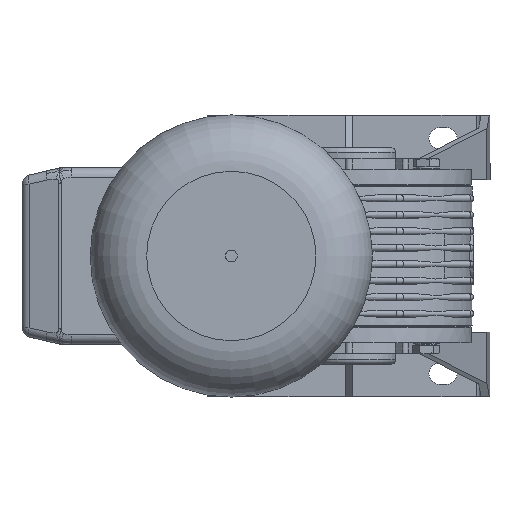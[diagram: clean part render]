
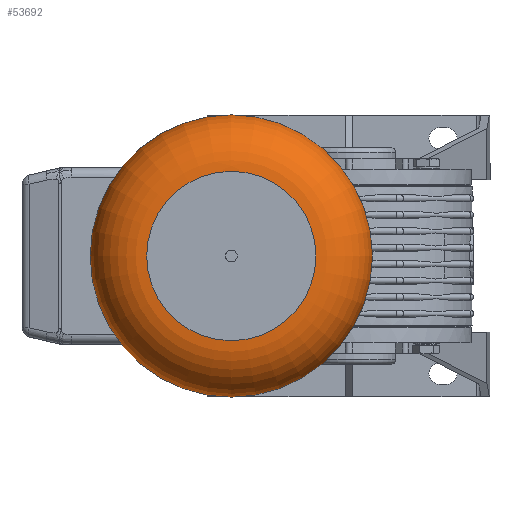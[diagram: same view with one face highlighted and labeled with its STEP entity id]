
A CAD part, left-side view. The second image highlights one B-rep face of the part: STEP entity #53692.
In plain terms, the highlighted toroidal (fillet/blend) face has major radius 36 mm and minor radius 24 mm.
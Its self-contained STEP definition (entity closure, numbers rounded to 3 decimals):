
#53665=CARTESIAN_POINT('',(236.0,0.0,0.0));
#53666=DIRECTION('',(1.0,0.0,0.0));
#53667=DIRECTION('',(0.0,0.0,-1.0));
#53668=AXIS2_PLACEMENT_3D('',#53665,#53666,#53667);
#53669=TOROIDAL_SURFACE('',#53668,36.,24.0);
#53670=CARTESIAN_POINT('',(260.0,36.,0.0));
#53671=VERTEX_POINT('',#53670);
#53672=CARTESIAN_POINT('',(260.0,0.0,0.0));
#53673=DIRECTION('',(1.0,0.0,0.0));
#53674=DIRECTION('',(0.0,1.0,0.0));
#53675=AXIS2_PLACEMENT_3D('',#53672,#53673,#53674);
#53676=CIRCLE('',#53675,36.);
#53677=EDGE_CURVE('',#53671,#53671,#53676,.T.);
#53678=ORIENTED_EDGE('',*,*,#53677,.F.);
#53679=EDGE_LOOP('',(#53678));
#53680=FACE_OUTER_BOUND('',#53679,.T.);
#53681=CARTESIAN_POINT('',(236.0,60.,0.0));
#53682=VERTEX_POINT('',#53681);
#53683=CARTESIAN_POINT('',(236.0,0.0,0.0));
#53684=DIRECTION('',(1.0,0.0,0.0));
#53685=DIRECTION('',(0.0,1.0,0.0));
#53686=AXIS2_PLACEMENT_3D('',#53683,#53684,#53685);
#53687=CIRCLE('',#53686,60.);
#53688=EDGE_CURVE('',#53682,#53682,#53687,.T.);
#53689=ORIENTED_EDGE('',*,*,#53688,.T.);
#53690=EDGE_LOOP('',(#53689));
#53691=FACE_BOUND('',#53690,.T.);
#53692=ADVANCED_FACE('',(#53680,#53691),#53669,.T.);
